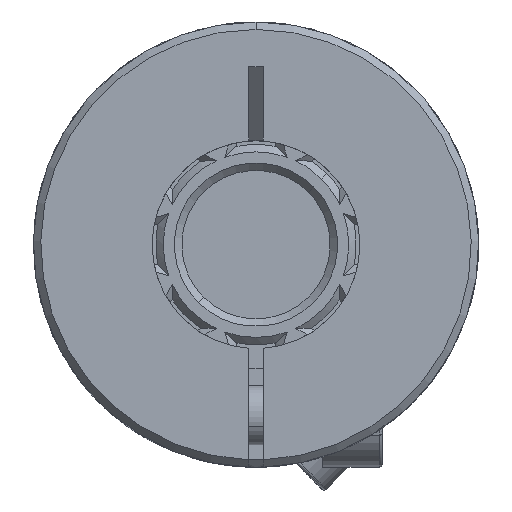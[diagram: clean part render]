
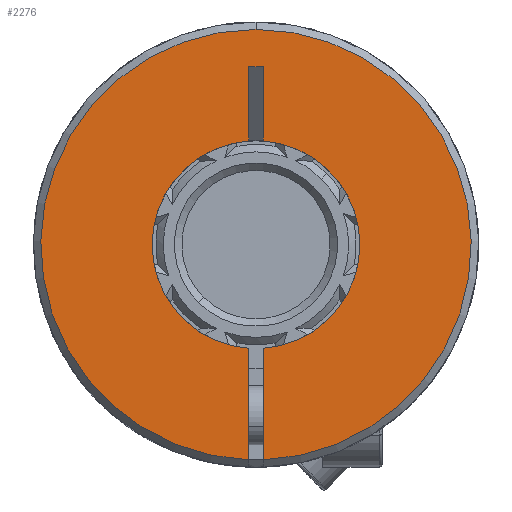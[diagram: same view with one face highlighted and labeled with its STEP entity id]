
A CAD part, front view. The second image highlights one B-rep face of the part: STEP entity #2276.
In plain terms, the highlighted planar face has unit normal (0, -1, 0).
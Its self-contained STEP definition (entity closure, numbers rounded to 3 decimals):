
#117 = CARTESIAN_POINT ( 'NONE',  ( -0.5, 0., -15. ) ) ;
#398 = AXIS2_PLACEMENT_3D ( 'NONE', #470, #5596, #1192 ) ;
#470 = CARTESIAN_POINT ( 'NONE',  ( 0., 0., 0. ) ) ;
#553 = VECTOR ( 'NONE', #8920, 1000. ) ;
#609 = VERTEX_POINT ( 'NONE', #7213 ) ;
#776 = CARTESIAN_POINT ( 'NONE',  ( 0., 0., 0. ) ) ;
#851 = VERTEX_POINT ( 'NONE', #7352 ) ;
#1038 = ORIENTED_EDGE ( 'NONE', *, *, #6668, .T. ) ;
#1058 = ORIENTED_EDGE ( 'NONE', *, *, #6733, .F. ) ;
#1087 = VERTEX_POINT ( 'NONE', #7120 ) ;
#1095 = CARTESIAN_POINT ( 'NONE',  ( 0.5, 0., 12. ) ) ;
#1173 = VECTOR ( 'NONE', #2189, 1000. ) ;
#1192 = DIRECTION ( 'NONE',  ( 0., 0., 1. ) ) ;
#1431 = ORIENTED_EDGE ( 'NONE', *, *, #4795, .F. ) ;
#1443 = CARTESIAN_POINT ( 'NONE',  ( 0.5, 0., -15. ) ) ;
#1490 = DIRECTION ( 'NONE',  ( 0., 0., 1. ) ) ;
#1525 = CARTESIAN_POINT ( 'NONE',  ( 0.5, 0., -14.491 ) ) ;
#1578 = CIRCLE ( 'NONE', #4791, 7. ) ;
#1658 = DIRECTION ( 'NONE',  ( 0., 1., 0. ) ) ;
#1705 = DIRECTION ( 'NONE',  ( 0., 0., 1. ) ) ;
#2020 = EDGE_CURVE ( 'NONE', #5724, #609, #3012, .T. ) ;
#2090 = DIRECTION ( 'NONE',  ( -1., 0., 0. ) ) ;
#2189 = DIRECTION ( 'NONE',  ( 0., 0., -1. ) ) ;
#2276 = ADVANCED_FACE ( 'NONE', ( #7237 ), #2344, .F. ) ;
#2344 = PLANE ( 'NONE',  #8039 ) ;
#2575 = VECTOR ( 'NONE', #3535, 1000. ) ;
#2646 = VERTEX_POINT ( 'NONE', #7988 ) ;
#2750 = LINE ( 'NONE', #4277, #4687 ) ;
#2788 = VERTEX_POINT ( 'NONE', #7543 ) ;
#3012 = CIRCLE ( 'NONE', #5746, 14.5 ) ;
#3055 = ORIENTED_EDGE ( 'NONE', *, *, #5404, .T. ) ;
#3089 = CARTESIAN_POINT ( 'NONE',  ( 0., 0., 0. ) ) ;
#3187 = EDGE_CURVE ( 'NONE', #4524, #8627, #3777, .T. ) ;
#3535 = DIRECTION ( 'NONE',  ( 0., 0., -1. ) ) ;
#3572 = EDGE_CURVE ( 'NONE', #4524, #2788, #2750, .T. ) ;
#3702 = EDGE_CURVE ( 'NONE', #8627, #1087, #1578, .T. ) ;
#3777 = LINE ( 'NONE', #4286, #7907 ) ;
#3983 = CARTESIAN_POINT ( 'NONE',  ( 0., 0., 0. ) ) ;
#4123 = CARTESIAN_POINT ( 'NONE',  ( 0.5, 0., 6.982 ) ) ;
#4214 = CIRCLE ( 'NONE', #5953, 7. ) ;
#4276 = ORIENTED_EDGE ( 'NONE', *, *, #2020, .T. ) ;
#4277 = CARTESIAN_POINT ( 'NONE',  ( 0.5, 0., 12. ) ) ;
#4286 = CARTESIAN_POINT ( 'NONE',  ( 0.5, 0., -15. ) ) ;
#4524 = VERTEX_POINT ( 'NONE', #1095 ) ;
#4687 = VECTOR ( 'NONE', #2090, 1000. ) ;
#4708 = DIRECTION ( 'NONE',  ( 0., 0., 1. ) ) ;
#4755 = ORIENTED_EDGE ( 'NONE', *, *, #3702, .T. ) ;
#4791 = AXIS2_PLACEMENT_3D ( 'NONE', #776, #5886, #1490 ) ;
#4795 = EDGE_CURVE ( 'NONE', #6075, #851, #6625, .T. ) ;
#5372 = CARTESIAN_POINT ( 'NONE',  ( 0., 0., 0. ) ) ;
#5404 = EDGE_CURVE ( 'NONE', #6075, #2646, #4214, .T. ) ;
#5596 = DIRECTION ( 'NONE',  ( 0., -1., 0. ) ) ;
#5724 = VERTEX_POINT ( 'NONE', #1525 ) ;
#5746 = AXIS2_PLACEMENT_3D ( 'NONE', #5372, #6092, #1705 ) ;
#5771 = ORIENTED_EDGE ( 'NONE', *, *, #3187, .T. ) ;
#5886 = DIRECTION ( 'NONE',  ( 0., 1., 0. ) ) ;
#5953 = AXIS2_PLACEMENT_3D ( 'NONE', #3983, #9109, #4708 ) ;
#6075 = VERTEX_POINT ( 'NONE', #8440 ) ;
#6092 = DIRECTION ( 'NONE',  ( 0., -1., 0. ) ) ;
#6463 = LINE ( 'NONE', #7903, #2575 ) ;
#6625 = LINE ( 'NONE', #117, #553 ) ;
#6668 = EDGE_CURVE ( 'NONE', #609, #851, #9342, .T. ) ;
#6733 = EDGE_CURVE ( 'NONE', #2788, #2646, #6463, .T. ) ;
#6775 = DIRECTION ( 'NONE',  ( 0., 0., 1. ) ) ;
#6867 = EDGE_CURVE ( 'NONE', #1087, #5724, #8990, .T. ) ;
#7120 = CARTESIAN_POINT ( 'NONE',  ( 0.5, 0., -6.982 ) ) ;
#7213 = CARTESIAN_POINT ( 'NONE',  ( 0., 0., 14.5 ) ) ;
#7234 = DIRECTION ( 'NONE',  ( 0., 0., -1. ) ) ;
#7237 = FACE_OUTER_BOUND ( 'NONE', #8167, .T. ) ;
#7352 = CARTESIAN_POINT ( 'NONE',  ( -0.5, 0., -14.491 ) ) ;
#7543 = CARTESIAN_POINT ( 'NONE',  ( -0.5, 0., 12. ) ) ;
#7903 = CARTESIAN_POINT ( 'NONE',  ( -0.5, 0., -15. ) ) ;
#7907 = VECTOR ( 'NONE', #7234, 1000. ) ;
#7988 = CARTESIAN_POINT ( 'NONE',  ( -0.5, 0., 6.982 ) ) ;
#8039 = AXIS2_PLACEMENT_3D ( 'NONE', #3089, #1658, #6775 ) ;
#8167 = EDGE_LOOP ( 'NONE', ( #9364, #4276, #1038, #1431, #3055, #1058, #8574, #5771, #4755 ) ) ;
#8440 = CARTESIAN_POINT ( 'NONE',  ( -0.5, 0., -6.982 ) ) ;
#8574 = ORIENTED_EDGE ( 'NONE', *, *, #3572, .F. ) ;
#8627 = VERTEX_POINT ( 'NONE', #4123 ) ;
#8920 = DIRECTION ( 'NONE',  ( 0., 0., -1. ) ) ;
#8990 = LINE ( 'NONE', #1443, #1173 ) ;
#9109 = DIRECTION ( 'NONE',  ( 0., 1., 0. ) ) ;
#9342 = CIRCLE ( 'NONE', #398, 14.5 ) ;
#9364 = ORIENTED_EDGE ( 'NONE', *, *, #6867, .T. ) ;
